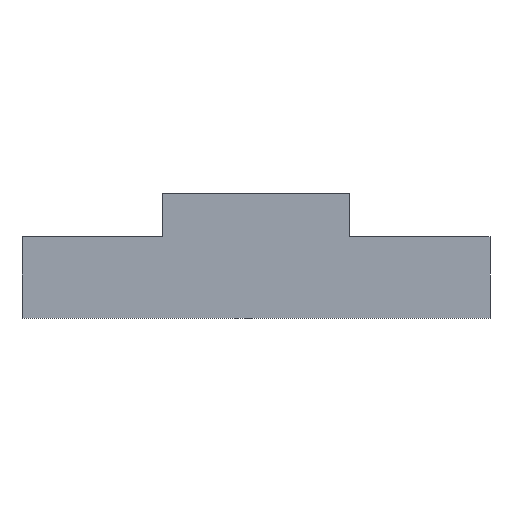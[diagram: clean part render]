
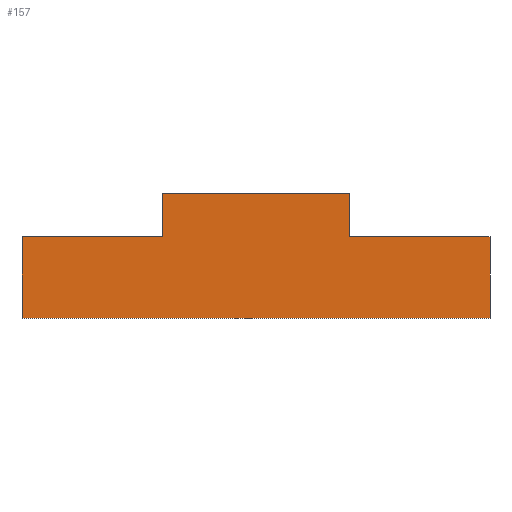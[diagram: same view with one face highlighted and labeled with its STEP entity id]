
A CAD part, front view. The second image highlights one B-rep face of the part: STEP entity #157.
In plain terms, the highlighted planar face has unit normal (0, -1, 0).
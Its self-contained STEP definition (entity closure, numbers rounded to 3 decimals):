
#105=AXIS2_PLACEMENT_3D('Plane Axis2P3D',#102,#103,#104) ;
#40=CARTESIAN_POINT('Vertex',(-15.,0.,-1.3)) ;
#56=CARTESIAN_POINT('Vertex',(-37.5,0.,-1.3)) ;
#59=CARTESIAN_POINT('Line Origine',(0.,0.,-1.3)) ;
#76=CARTESIAN_POINT('Line Origine',(-37.5,0.,-7.2)) ;
#80=CARTESIAN_POINT('Vertex',(-37.5,0.,-14.4)) ;
#102=CARTESIAN_POINT('Axis2P3D Location',(0.,0.,0.)) ;
#107=CARTESIAN_POINT('Line Origine',(0.,0.,5.6)) ;
#111=CARTESIAN_POINT('Vertex',(15.,0.,5.6)) ;
#113=CARTESIAN_POINT('Vertex',(-15.,0.,5.6)) ;
#116=CARTESIAN_POINT('Line Origine',(-15.,0.,2.15)) ;
#121=CARTESIAN_POINT('Line Origine',(0.,0.,-14.4)) ;
#125=CARTESIAN_POINT('Vertex',(37.5,0.,-14.4)) ;
#128=CARTESIAN_POINT('Line Origine',(37.5,0.,-7.85)) ;
#132=CARTESIAN_POINT('Vertex',(37.5,0.,-1.3)) ;
#135=CARTESIAN_POINT('Line Origine',(26.25,0.,-1.3)) ;
#139=CARTESIAN_POINT('Vertex',(15.,0.,-1.3)) ;
#142=CARTESIAN_POINT('Line Origine',(15.,0.,2.15)) ;
#60=DIRECTION('Vector Direction',(-1.,0.,0.)) ;
#77=DIRECTION('Vector Direction',(0.,0.,-1.)) ;
#103=DIRECTION('Axis2P3D Direction',(0.,1.,-0.)) ;
#104=DIRECTION('Axis2P3D XDirection',(-1.,0.,0.)) ;
#108=DIRECTION('Vector Direction',(-1.,0.,0.)) ;
#117=DIRECTION('Vector Direction',(0.,0.,-1.)) ;
#122=DIRECTION('Vector Direction',(-1.,0.,0.)) ;
#129=DIRECTION('Vector Direction',(0.,0.,1.)) ;
#136=DIRECTION('Vector Direction',(-1.,0.,0.)) ;
#143=DIRECTION('Vector Direction',(0.,0.,1.)) ;
#61=VECTOR('Line Direction',#60,1.) ;
#78=VECTOR('Line Direction',#77,1.) ;
#109=VECTOR('Line Direction',#108,1.) ;
#118=VECTOR('Line Direction',#117,1.) ;
#123=VECTOR('Line Direction',#122,1.) ;
#130=VECTOR('Line Direction',#129,1.) ;
#137=VECTOR('Line Direction',#136,1.) ;
#144=VECTOR('Line Direction',#143,1.) ;
#148=ORIENTED_EDGE('',*,*,#115,.T.) ;
#149=ORIENTED_EDGE('',*,*,#120,.T.) ;
#150=ORIENTED_EDGE('',*,*,#63,.T.) ;
#151=ORIENTED_EDGE('',*,*,#82,.T.) ;
#152=ORIENTED_EDGE('',*,*,#127,.F.) ;
#153=ORIENTED_EDGE('',*,*,#134,.T.) ;
#154=ORIENTED_EDGE('',*,*,#141,.T.) ;
#155=ORIENTED_EDGE('',*,*,#146,.T.) ;
#157=ADVANCED_FACE('PartBody',(#156),#106,.F.) ;
#63=EDGE_CURVE('',#41,#57,#62,.T.) ;
#82=EDGE_CURVE('',#57,#81,#79,.T.) ;
#115=EDGE_CURVE('',#112,#114,#110,.T.) ;
#120=EDGE_CURVE('',#114,#41,#119,.T.) ;
#127=EDGE_CURVE('',#126,#81,#124,.T.) ;
#134=EDGE_CURVE('',#126,#133,#131,.T.) ;
#141=EDGE_CURVE('',#133,#140,#138,.T.) ;
#146=EDGE_CURVE('',#140,#112,#145,.T.) ;
#147=EDGE_LOOP('',(#148,#149,#150,#151,#152,#153,#154,#155)) ;
#156=FACE_OUTER_BOUND('',#147,.T.) ;
#62=LINE('Line',#59,#61) ;
#79=LINE('Line',#76,#78) ;
#110=LINE('Line',#107,#109) ;
#119=LINE('Line',#116,#118) ;
#124=LINE('Line',#121,#123) ;
#131=LINE('Line',#128,#130) ;
#138=LINE('Line',#135,#137) ;
#145=LINE('Line',#142,#144) ;
#106=PLANE('',#105) ;
#41=VERTEX_POINT('',#40) ;
#57=VERTEX_POINT('',#56) ;
#81=VERTEX_POINT('',#80) ;
#112=VERTEX_POINT('',#111) ;
#114=VERTEX_POINT('',#113) ;
#126=VERTEX_POINT('',#125) ;
#133=VERTEX_POINT('',#132) ;
#140=VERTEX_POINT('',#139) ;
